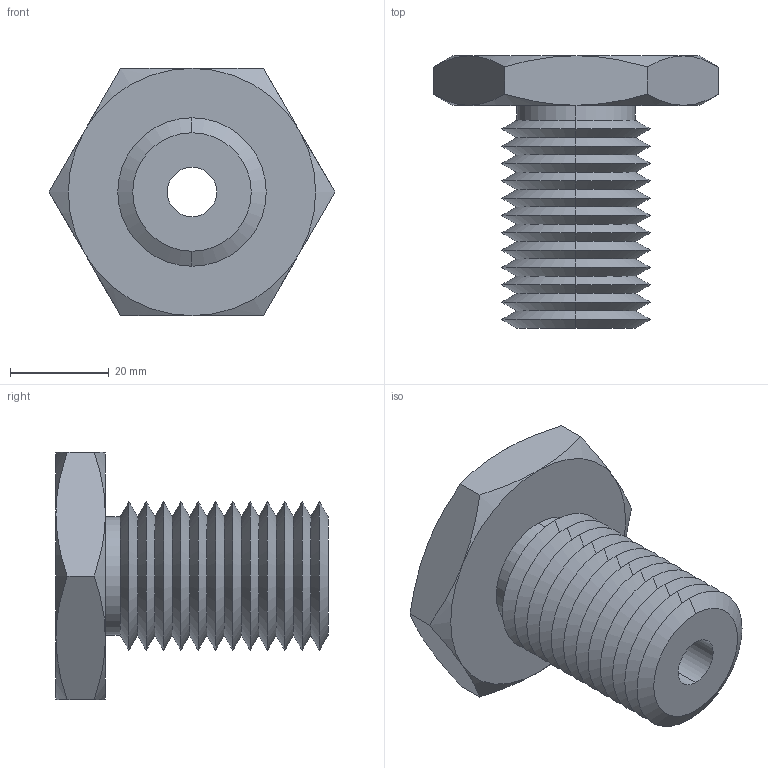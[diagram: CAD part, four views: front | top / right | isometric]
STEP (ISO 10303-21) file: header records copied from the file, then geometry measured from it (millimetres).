
FILE_DESCRIPTION (( 'STEP AP203' ), '1' );
FILE_NAME ('63302.W0030_M10x1,5.step', '2013-12-08T11:05:21', ( 'User' ), ( '' ), 'SwSTEP 2.0', 'SolidWorks 2009', '' );
FILE_SCHEMA (( 'CONFIG_CONTROL_DESIGN' ));
Length unit declared in the file: millimetre
Products named in the file (1): 63302.W0030_M10x1,5
Bounding box: 57.73 x 55 x 50 mm (x, y, z)
Volume: 42463.7 mm3; surface area: 14747.9 mm2
Topology: 1 solids, 1 shells, 75 faces, 154 edges, 82 vertices
Faces by surface type: cone 62, plane 9, cylinder 4
Entity records: 2139 total; most frequent: CARTESIAN_POINT 496, DIRECTION 352, ORIENTED_EDGE 308, EDGE_CURVE 154, AXIS2_PLACEMENT_3D 146, VERTEX_POINT 82, EDGE_LOOP 78, ADVANCED_FACE 75
